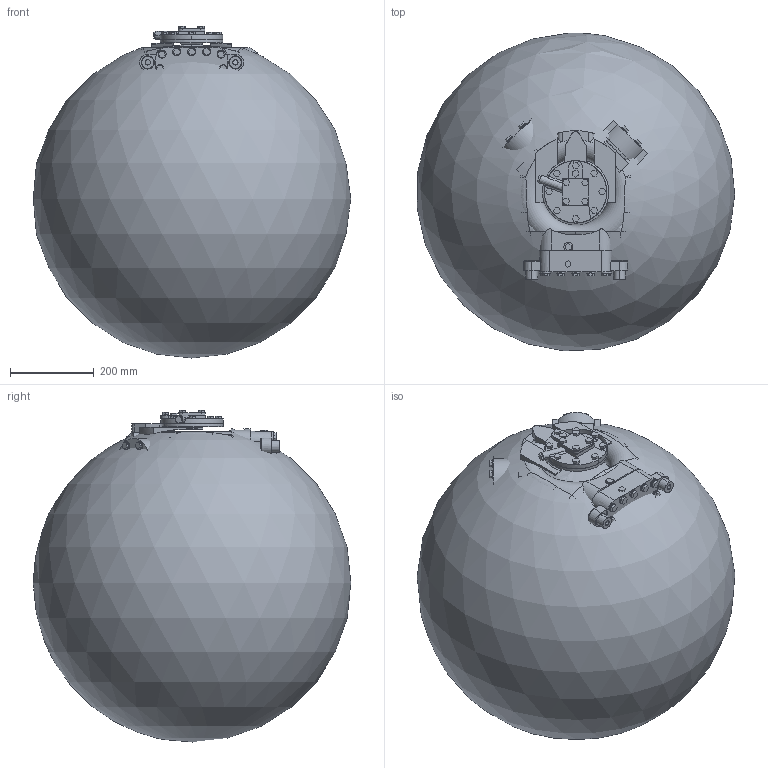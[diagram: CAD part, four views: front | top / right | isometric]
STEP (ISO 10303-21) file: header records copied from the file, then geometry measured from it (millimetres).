
FILE_DESCRIPTION((''),'2;1');
FILE_NAME('06D41EC3_SV_SW_1','2004-01-23T',('manikandanm'),(''),'PRO/ENGINEER BY PARAMETRIC TECHNOLOGY CORPORATION, 2001280','PRO/ENGINEER BY PARAMETRIC TECHNOLOGY CORPORATION, 2001280','');
FILE_SCHEMA(('CONFIG_CONTROL_DESIGN','SHAPE_APPEARANCE_LAYERS_GROUPS'));
Products named in the file (1): 06D41EC3_SV_SW_1
Bounding box: 760.01 x 760.62 x 794.92 mm (x, y, z)
Surface area: 5467749.4 mm2 (no closed solid volume)
Topology: 0 solids, 0 shells, 1147 faces, 5658 edges, 5622 vertices
Faces by surface type: bspline 1123, sphere 13, torus 11
Entity records: 162585 total; most frequent: CARTESIAN_POINT 94967, DIRECTION 8269, TRIMMED_CURVE 7347, VECTOR 6473, LINE 6473, DEFINITIONAL_REPRESENTATION 5601, PCURVE 5601, COMPOSITE_CURVE_SEGMENT 5601
